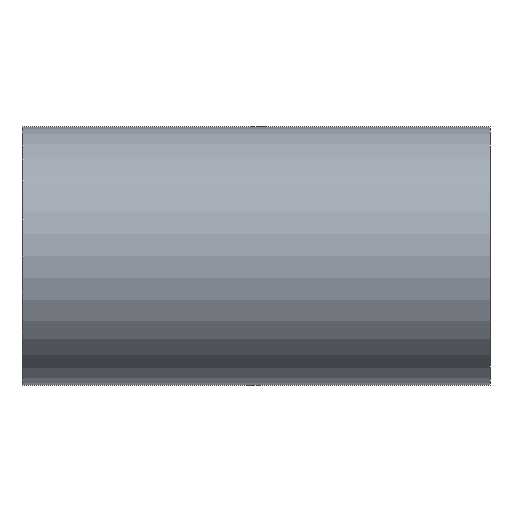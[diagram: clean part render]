
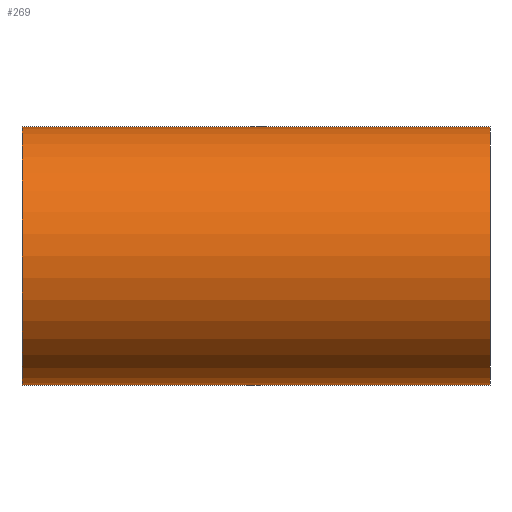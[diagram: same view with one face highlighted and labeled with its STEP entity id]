
A CAD part, left-side view. The second image highlights one B-rep face of the part: STEP entity #269.
In plain terms, the highlighted cylindrical face has radius 65 mm (diameter 130 mm), a full revolution.
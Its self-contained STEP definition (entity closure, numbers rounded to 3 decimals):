
#17=ELLIPSE('',#300,91.924,65.);
#18=ELLIPSE('',#301,91.924,65.);
#25=FACE_BOUND('',#92,.T.);
#26=FACE_BOUND('',#93,.T.);
#37=CYLINDRICAL_SURFACE('',#298,65.);
#66=FACE_OUTER_BOUND('',#91,.T.);
#91=EDGE_LOOP('',(#230));
#92=EDGE_LOOP('',(#231,#232));
#93=EDGE_LOOP('',(#233));
#116=CIRCLE('',#299,65.);
#117=CIRCLE('',#302,65.);
#150=VERTEX_POINT('',#6668);
#151=VERTEX_POINT('',#6670);
#152=VERTEX_POINT('',#6671);
#153=VERTEX_POINT('',#6674);
#182=EDGE_CURVE('',#150,#150,#116,.T.);
#183=EDGE_CURVE('',#151,#152,#17,.T.);
#184=EDGE_CURVE('',#152,#151,#18,.T.);
#185=EDGE_CURVE('',#153,#153,#117,.T.);
#230=ORIENTED_EDGE('',*,*,#182,.F.);
#231=ORIENTED_EDGE('',*,*,#183,.T.);
#232=ORIENTED_EDGE('',*,*,#184,.T.);
#233=ORIENTED_EDGE('',*,*,#185,.F.);
#269=ADVANCED_FACE('',(#66,#25,#26),#37,.T.);
#298=AXIS2_PLACEMENT_3D('',#6667,#356,#357);
#299=AXIS2_PLACEMENT_3D('',#6669,#358,#359);
#300=AXIS2_PLACEMENT_3D('',#6672,#360,#361);
#301=AXIS2_PLACEMENT_3D('',#6673,#362,#363);
#302=AXIS2_PLACEMENT_3D('',#6675,#364,#365);
#356=DIRECTION('center_axis',(0.,1.,0.));
#357=DIRECTION('ref_axis',(1.,0.,0.));
#358=DIRECTION('center_axis',(0.,-1.,0.));
#359=DIRECTION('ref_axis',(1.,0.,0.));
#360=DIRECTION('center_axis',(-0.707,-0.707,0.));
#361=DIRECTION('ref_axis',(0.707,-0.707,0.));
#362=DIRECTION('center_axis',(-0.707,0.707,0.));
#363=DIRECTION('ref_axis',(-0.707,-0.707,0.));
#364=DIRECTION('center_axis',(0.,1.,0.));
#365=DIRECTION('ref_axis',(1.,0.,0.));
#6667=CARTESIAN_POINT('Origin',(0.,0.,0.));
#6668=CARTESIAN_POINT('',(-65.,-117.5,0.));
#6669=CARTESIAN_POINT('Origin',(0.,-117.5,0.));
#6670=CARTESIAN_POINT('',(0.,0.,-65.));
#6671=CARTESIAN_POINT('',(0.,0.,65.));
#6672=CARTESIAN_POINT('Origin',(0.,0.,0.));
#6673=CARTESIAN_POINT('Origin',(0.,0.,0.));
#6674=CARTESIAN_POINT('',(-65.,117.5,0.));
#6675=CARTESIAN_POINT('Origin',(0.,117.5,0.));
